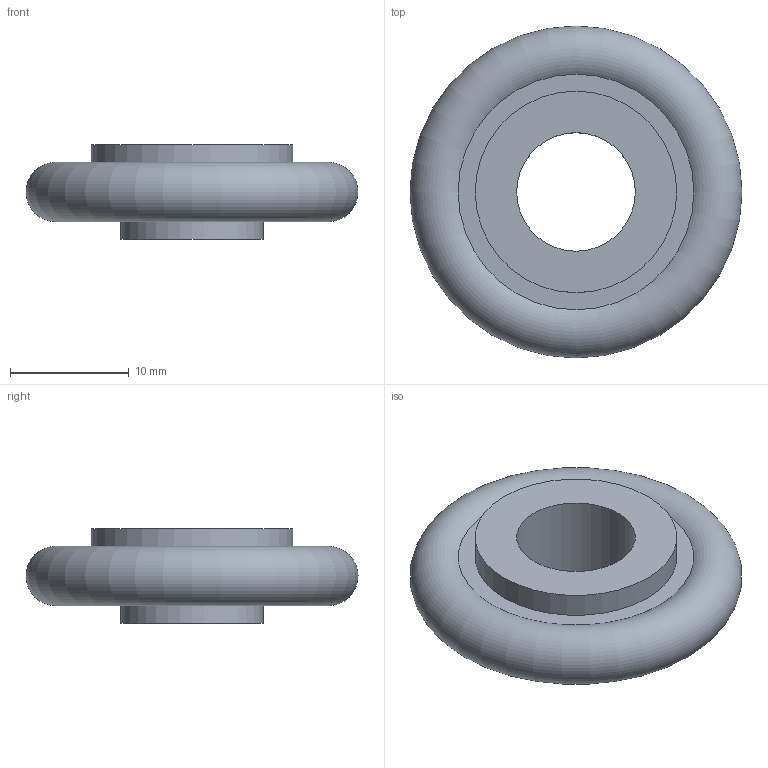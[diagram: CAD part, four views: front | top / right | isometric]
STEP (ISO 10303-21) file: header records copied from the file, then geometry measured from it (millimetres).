
FILE_DESCRIPTION( ( 'Unknown' ), '1' );
FILE_NAME( 'X:/Daten ( aktueller Bestand )/Projekte und Zeichnungen/Solid Edge/STP-Dateien/Dichtungsbauteile und Zubehör KF/1241.stp', 'Unknown', ( 'Unknown' ), ( 'Unknown' ), 'PSStep 14.0', 'Unknown', ' ' );
FILE_SCHEMA( ( 'AUTOMOTIVE_DESIGN { 1 0 10303 214 1 1 1 1 }' ) );
Length unit declared in the file: millimetre
Products named in the file (2): Assem1; 1_3
Assembly tree (1 placements, depth 2):
  Assem1
    1_3
Bounding box: 28 x 28 x 8 mm (x, y, z)
Volume: 2544.5 mm3; surface area: 1774.3 mm2
Topology: 1 solids, 1 shells, 8 faces, 12 edges, 8 vertices
Faces by surface type: plane 4, cylinder 3, torus 1
Full cylindrical faces by diameter (mm): 10 x1, 12 x1, 17 x1
Entity records: 270 total; most frequent: DIRECTION 36, CARTESIAN_POINT 26, AXIS2_PLACEMENT_3D 18, EDGE_LOOP 16, ORIENTED_EDGE 16, FACE_OUTER_BOUND 12, STYLED_ITEM 8, PRESENTATION_STYLE_ASSIGNMENT 8
